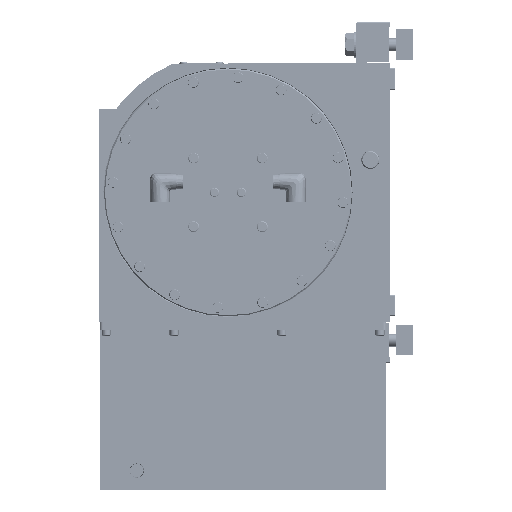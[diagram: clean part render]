
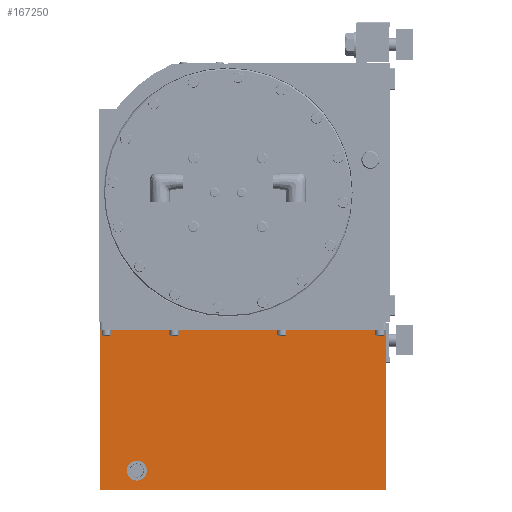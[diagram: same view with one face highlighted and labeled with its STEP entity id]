
A CAD part, left-side view. The second image highlights one B-rep face of the part: STEP entity #167250.
In plain terms, the highlighted planar face has unit normal (-1, 0, 0) as drawn and (0, 0, 1) by its records, which use the part's own axes.
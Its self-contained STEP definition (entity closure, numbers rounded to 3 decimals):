
#32 = VECTOR ( 'NONE', #161516, 1000. ) ;
#4680 = LINE ( 'NONE', #191261, #32 ) ;
#10039 = CARTESIAN_POINT ( 'NONE',  ( -8., 0., 117.5 ) ) ;
#11594 = CARTESIAN_POINT ( 'NONE',  ( -8., 266., 117.5 ) ) ;
#12202 = CARTESIAN_POINT ( 'NONE',  ( -8., 0., 117.5 ) ) ;
#22908 = VECTOR ( 'NONE', #84458, 1000. ) ;
#25899 = DIRECTION ( 'NONE',  ( 0., 0., -1. ) ) ;
#38978 = EDGE_CURVE ( 'NONE', #174478, #110930, #82726, .T. ) ;
#40121 = PLANE ( 'NONE',  #42147 ) ;
#40808 = EDGE_CURVE ( 'NONE', #177022, #191198, #4680, .T. ) ;
#42147 = AXIS2_PLACEMENT_3D ( 'NONE', #84777, #25899, #129373 ) ;
#43354 = VECTOR ( 'NONE', #130612, 1000. ) ;
#44198 = EDGE_LOOP ( 'NONE', ( #106832, #133278, #95238, #134576 ) ) ;
#48475 = LINE ( 'NONE', #107895, #122549 ) ;
#49768 = CARTESIAN_POINT ( 'NONE',  ( -156., 266., 117.5 ) ) ;
#49919 = CARTESIAN_POINT ( 'NONE',  ( -147.25, 231.5, 117.5 ) ) ;
#53597 = EDGE_CURVE ( 'NONE', #177022, #174478, #140929, .T. ) ;
#62608 = DIRECTION ( 'NONE',  ( 1., 0., 0. ) ) ;
#69801 = DIRECTION ( 'NONE',  ( 0., 0., 1. ) ) ;
#69873 = CARTESIAN_POINT ( 'NONE',  ( -138., 231.5, 117.5 ) ) ;
#76977 = EDGE_CURVE ( 'NONE', #107703, #161429, #126795, .T. ) ;
#78183 = CARTESIAN_POINT ( 'NONE',  ( -156., 0., 117.5 ) ) ;
#82726 = LINE ( 'NONE', #12202, #43354 ) ;
#84458 = DIRECTION ( 'NONE',  ( 1., 0., 0. ) ) ;
#84726 = DIRECTION ( 'NONE',  ( -1., 0., 0. ) ) ;
#84777 = CARTESIAN_POINT ( 'NONE',  ( -156., 0., 117.5 ) ) ;
#86262 = FACE_BOUND ( 'NONE', #122911, .T. ) ;
#86750 = EDGE_CURVE ( 'NONE', #191198, #110930, #48475, .T. ) ;
#95238 = ORIENTED_EDGE ( 'NONE', *, *, #40808, .F. ) ;
#97793 = CARTESIAN_POINT ( 'NONE',  ( -128.75, 231.5, 117.5 ) ) ;
#99317 = CARTESIAN_POINT ( 'NONE',  ( -156., 0., 117.5 ) ) ;
#106832 = ORIENTED_EDGE ( 'NONE', *, *, #38978, .T. ) ;
#107703 = VERTEX_POINT ( 'NONE', #97793 ) ;
#107895 = CARTESIAN_POINT ( 'NONE',  ( -156., 266., 117.5 ) ) ;
#110930 = VERTEX_POINT ( 'NONE', #11594 ) ;
#122549 = VECTOR ( 'NONE', #62608, 1000. ) ;
#122911 = EDGE_LOOP ( 'NONE', ( #189258, #191883 ) ) ;
#126795 = CIRCLE ( 'NONE', #173993, 9.25 ) ;
#129373 = DIRECTION ( 'NONE',  ( -1., 0., 0. ) ) ;
#130612 = DIRECTION ( 'NONE',  ( 0., 1., 0. ) ) ;
#132372 = EDGE_CURVE ( 'NONE', #161429, #107703, #163247, .T. ) ;
#133278 = ORIENTED_EDGE ( 'NONE', *, *, #86750, .F. ) ;
#134576 = ORIENTED_EDGE ( 'NONE', *, *, #53597, .T. ) ;
#139487 = FACE_OUTER_BOUND ( 'NONE', #44198, .T. ) ;
#140929 = LINE ( 'NONE', #99317, #22908 ) ;
#158368 = CARTESIAN_POINT ( 'NONE',  ( -138., 231.5, 117.5 ) ) ;
#161429 = VERTEX_POINT ( 'NONE', #49919 ) ;
#161516 = DIRECTION ( 'NONE',  ( 0., 1., 0. ) ) ;
#163247 = CIRCLE ( 'NONE', #179979, 9.25 ) ;
#167250 = ADVANCED_FACE ( 'NONE', ( #86262, #139487 ), #40121, .F. ) ;
#173148 = DIRECTION ( 'NONE',  ( -1., 0., 0. ) ) ;
#173232 = DIRECTION ( 'NONE',  ( 0., 0., 1. ) ) ;
#173993 = AXIS2_PLACEMENT_3D ( 'NONE', #158368, #69801, #173148 ) ;
#174478 = VERTEX_POINT ( 'NONE', #10039 ) ;
#177022 = VERTEX_POINT ( 'NONE', #78183 ) ;
#179979 = AXIS2_PLACEMENT_3D ( 'NONE', #69873, #173232, #84726 ) ;
#189258 = ORIENTED_EDGE ( 'NONE', *, *, #132372, .F. ) ;
#191198 = VERTEX_POINT ( 'NONE', #49768 ) ;
#191261 = CARTESIAN_POINT ( 'NONE',  ( -156., 0., 117.5 ) ) ;
#191883 = ORIENTED_EDGE ( 'NONE', *, *, #76977, .F. ) ;
